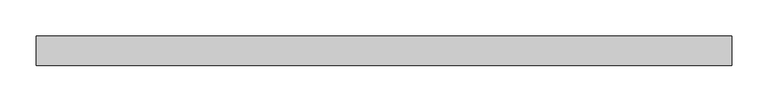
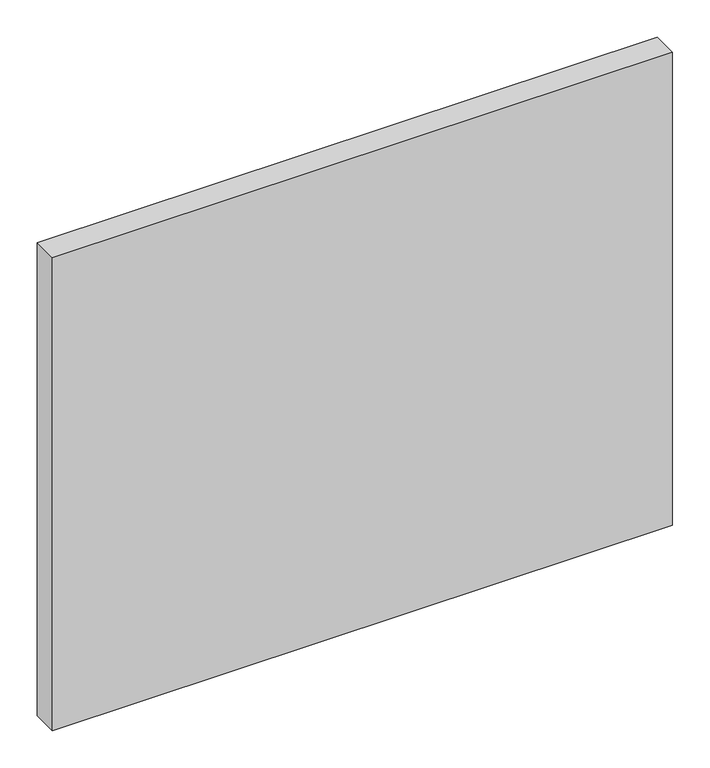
"""IFC4 building model written with IfcOpenShell, lengths in millimetres: plate geometry, Panneau système : Vitre 4cm."""

from ifc_helpers import new_model, si_unit, origin, origin_with_axes, place, context, project, spatial, polyline, outline, extrude, source, transform, mapped, element, save


def plate_0100d0db(model_context):
    return source(origin(), model_context, "Body", "SweptSolid", [
        extrude(outline(polyline([(477.4516975, -20.0), (-477.4516975, -20.0), (-477.4516975, 20.0), (477.4516975, 20.0), (477.4516975, -20.0)])), origin_with_axes(), (0.0, 0.0, 1.0), 770.0),
    ])


if __name__ == "__main__":
    model = new_model("IFC4")
    model_context = context("Model", 3, world=origin())
    ifc_project = project(units=[si_unit("LENGTHUNIT", "METRE", prefix="MILLI")], contexts=[model_context])
    site = spatial("IfcSite", under=ifc_project)
    building = spatial("IfcBuilding", under=site)
    placement = place(None, origin())
    plate_shape = plate_0100d0db(model_context)
    element("IfcPlate", 1, ObjectType="Panneau système : Vitre 4cm", at=placement, inside=building, context=model_context, shape_type="MappedRepresentation", body=[
        mapped(plate_shape, transform((0.0, 0.0, 0.0), x_axis=(1.0, 0.0, 0.0), y_axis=(0.0, 1.0, 0.0), z_axis=(0.0, 0.0, 1.0))),
    ])
    save(model, "model.ifc")
